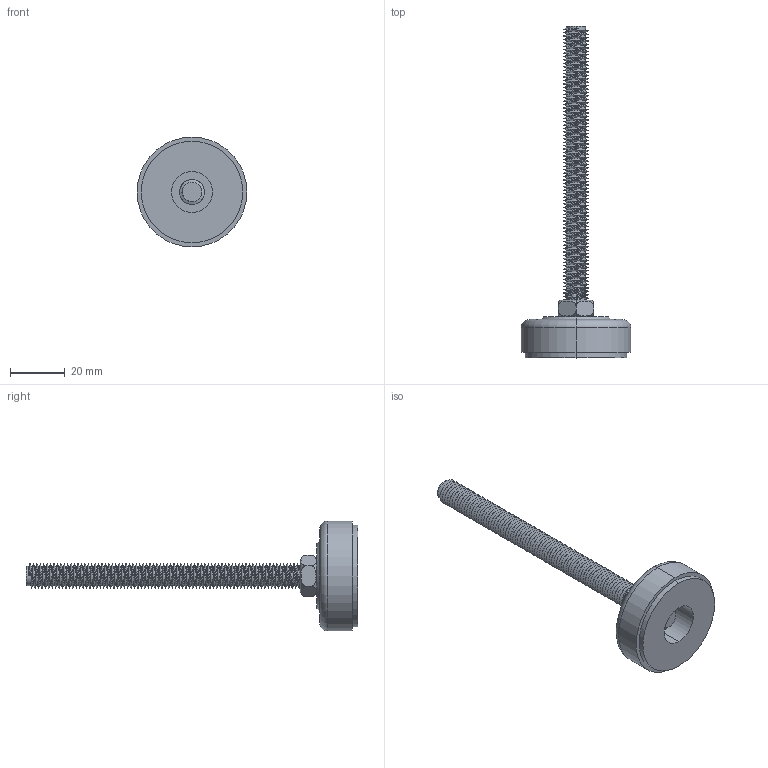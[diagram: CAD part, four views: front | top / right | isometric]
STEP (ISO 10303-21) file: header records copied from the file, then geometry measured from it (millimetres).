
FILE_DESCRIPTION (( 'STEP AP203' ), '1' );
FILE_NAME ('BS4010100.STEP', '2018-01-12T06:45:46', ( '' ), ( '' ), 'SwSTEP 2.0', 'SolidWorks 2014', '' );
FILE_SCHEMA (( 'CONFIG_CONTROL_DESIGN' ));
Length unit declared in the file: millimetre
Products named in the file (3): BS4010100; 螺桿M10XL100XP1.5; 底座BS40
Assembly tree (2 placements, depth 2):
  BS4010100
    底座BS40
    螺桿M10XL100XP1.5
Bounding box: 40 x 121 x 40 mm (x, y, z)
Volume: 20806.2 mm3; surface area: 10719.8 mm2
Topology: 2 solids, 2 shells, 211 faces, 600 edges, 398 vertices
Faces by surface type: cylinder 181, plane 18, torus 6, bspline 4, cone 2
Entity records: 14404 total; most frequent: CARTESIAN_POINT 9657, ORIENTED_EDGE 1200, DIRECTION 700, EDGE_CURVE 600, VERTEX_POINT 398, AXIS2_PLACEMENT_3D 252, EDGE_LOOP 218, ADVANCED_FACE 211
